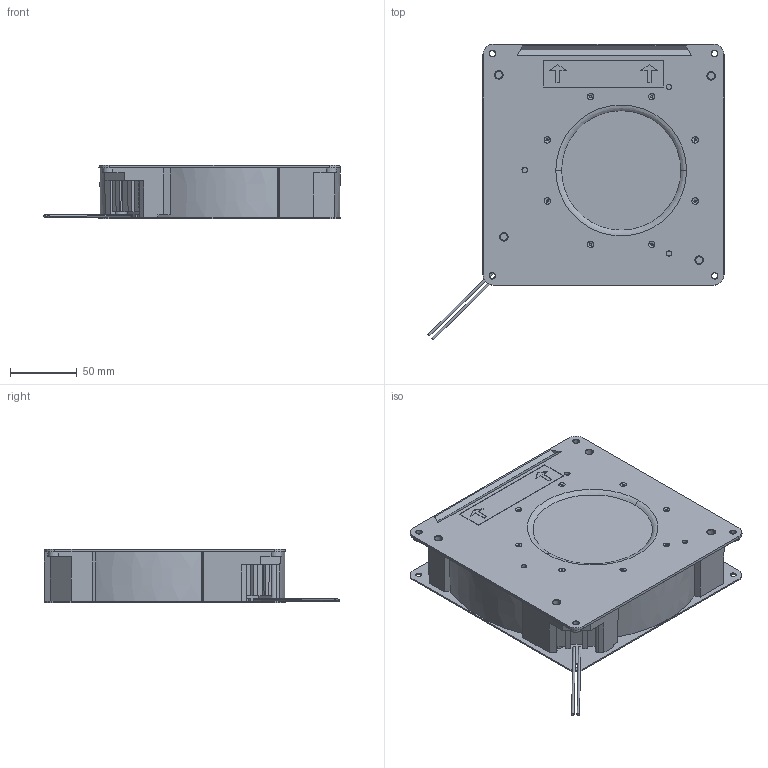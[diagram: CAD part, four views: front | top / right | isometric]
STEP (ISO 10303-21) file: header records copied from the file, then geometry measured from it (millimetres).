
FILE_DESCRIPTION((''),'2;1');
FILE_NAME('18040__3','2026-09-02T10:35:08',('pc'),(''),'CREO PARAMETRIC BY PTC INC, 2018050','CREO PARAMETRIC BY PTC INC, 2018050','');
FILE_SCHEMA(('CONFIG_CONTROL_DESIGN','GEOMETRIC_VALIDATION_PROPERTIES_MIM'));
Length unit declared in the file: millimetre
Products named in the file (1): 18040__3
Bounding box: 221.25 x 220.76 x 40 mm (x, y, z)
Volume: 1075445.8 mm3; surface area: 166458.4 mm2
Topology: 3 solids, 10 shells, 400 faces, 1072 edges, 716 vertices
Faces by surface type: plane 214, cone 75, cylinder 42, bspline 35, torus 17, extrusion 13, revolution 4
Entity records: 18798 total; most frequent: CARTESIAN_POINT 4955, ORIENTED_EDGE 2138, DIRECTION 1933, PRESENTATION_STYLE_ASSIGNMENT 1150, STYLED_ITEM 1074, CURVE_STYLE 1071, EDGE_CURVE 1069, VERTEX_POINT 716
